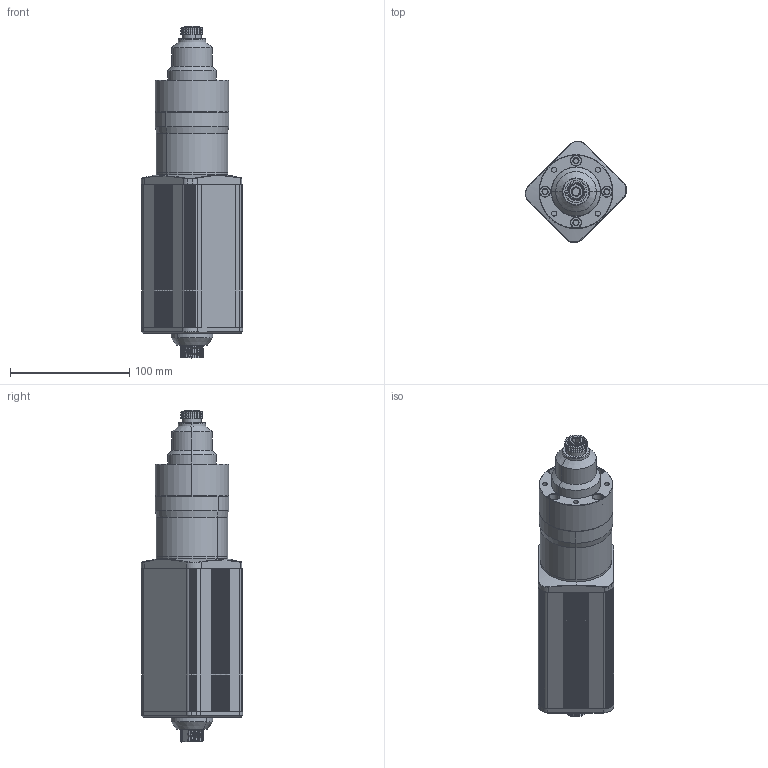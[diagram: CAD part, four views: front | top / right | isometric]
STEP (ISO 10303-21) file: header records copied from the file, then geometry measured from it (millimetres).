
FILE_DESCRIPTION (( 'STEP AP203' ), '1' );
FILE_NAME ('ZEDA-DE-MA6.35-2000 DE系列-低压高速智能电批.STEP', '2026-08-11T10:00:33', ( 'Windows User' ), ( 'P R C' ), 'SwSTEP 2.0', 'SolidWorks 2025', '' );
FILE_SCHEMA (( 'CONFIG_CONTROL_DESIGN' ));
Length unit declared in the file: millimetre
Products named in the file (1): ZEDA-DE-MA6.35-2000 DE系列-低压高速智能电批
Bounding box: 85.01 x 85.02 x 278.85 mm (x, y, z)
Surface area: 83683.9 mm2 (no closed solid volume)
Topology: 0 solids, 25 shells, 524 faces, 1625 edges, 1119 vertices
Faces by surface type: cylinder 308, plane 89, cone 56, bspline 45, torus 26
Entity records: 36377 total; most frequent: CARTESIAN_POINT 22037, DIRECTION 3074, ORIENTED_EDGE 2905, EDGE_CURVE 1625, AXIS2_PLACEMENT_3D 1225, VERTEX_POINT 1119, CIRCLE 745, LINE 624
